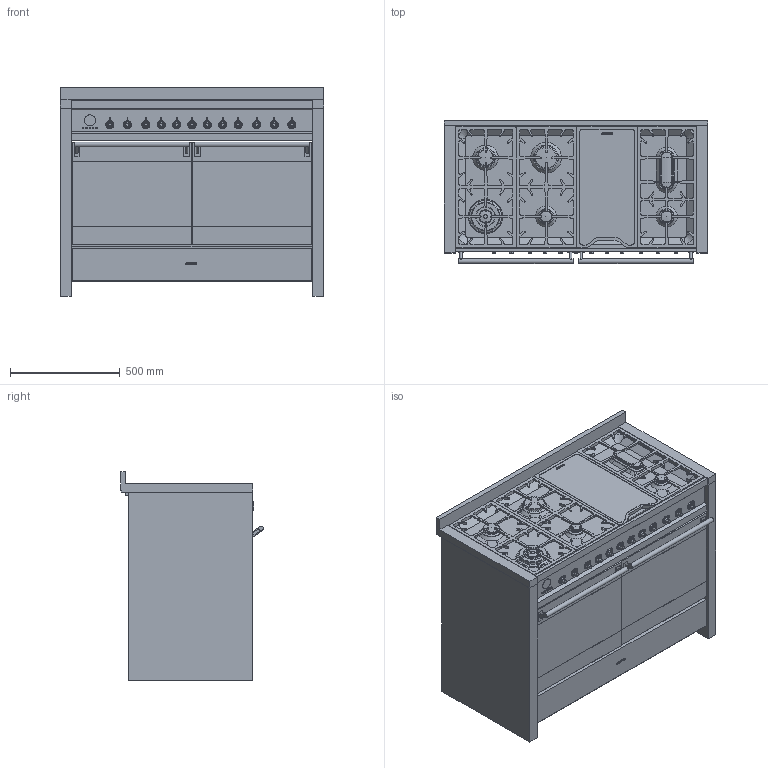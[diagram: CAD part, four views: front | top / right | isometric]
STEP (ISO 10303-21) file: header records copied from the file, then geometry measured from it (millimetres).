
FILE_DESCRIPTION(/* description */ (''),/* implementation_level */ '2;1');
FILE_NAME(/* name */ 'A4-8.stp',/* time_stamp */ '2012-07-09T09:42:07+02:00',/* author */ (''),/* organization */ (''),/* preprocessor_version */ 'ST-DEVELOPER v11',/* originating_system */ 'SIEMENS PLM Software NX 7.5',/* authorisation */ '');
FILE_SCHEMA (('AUTOMOTIVE_DESIGN { 1 0 10303 214 1 1 1 1 }'));
Length unit declared in the file: millimetre
Products named in the file (1): FIORDB38vsfh
Bounding box: 1200 x 651 x 951.1 mm (x, y, z)
Volume: 85577735 mm3; surface area: 8868863.5 mm2
Topology: 62 solids, 62 shells, 1594 faces, 4103 edges, 2690 vertices
Faces by surface type: plane 865, extrusion 311, cylinder 239, torus 95, cone 67, bspline 11, sphere 4, revolution 2
Full cylindrical faces by diameter (mm): 4.3 x2, 4.363 x4, 4.608 x6, 6 x10, 14.996 x12, 17 x12, 22 x14, 50 x2, 55 x2, 60.611 x1, 65.5 x2, 75 x1, 85.5 x1, 85.7 x1, 100 x1, 110.5 x1, 131 x1, 147 x1
Entity records: 53023 total; most frequent: CARTESIAN_POINT 14830, ORIENTED_EDGE 7706, DIRECTION 7252, EDGE_CURVE 3853, VECTOR 2754, VERTEX_POINT 2659, LINE 2443, AXIS2_PLACEMENT_3D 2248
